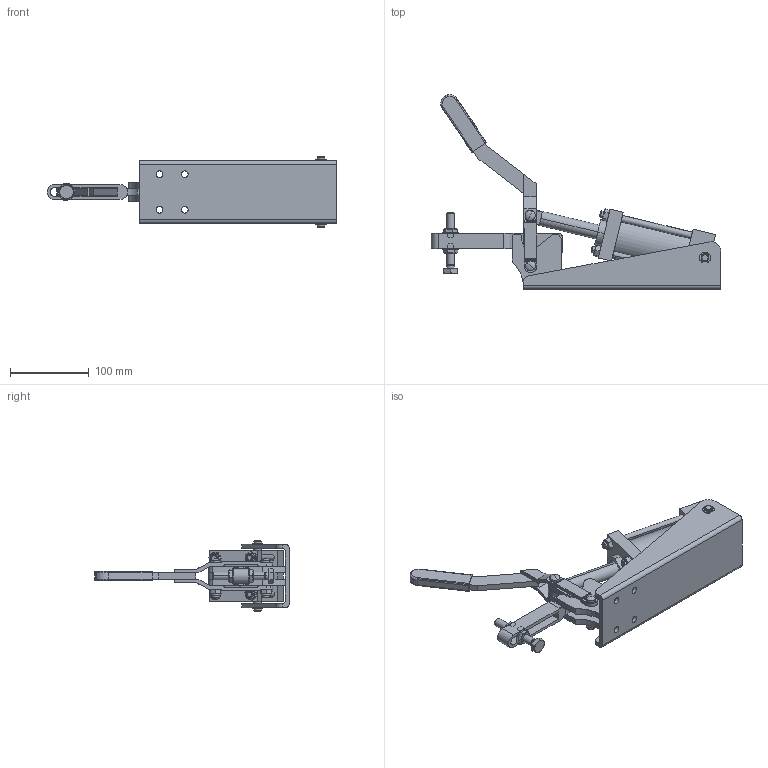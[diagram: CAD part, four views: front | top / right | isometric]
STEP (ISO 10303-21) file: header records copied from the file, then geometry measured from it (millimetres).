
FILE_DESCRIPTION((''),'2;1');
FILE_NAME('S:\Matthew\STEP FILES (Toggle Clamps) v.3.05\Air Horizontal\AH500\AH500U HO.stp','2006-07-11T14:34:51',('Matthew'),(''),'Autodesk Inventor 8','Autodesk Inventor 8','');
FILE_SCHEMA(('AUTOMOTIVE_DESIGN { 1 0 10303 214 1 1 1 1 }'));
Length unit declared in the file: millimetre
Products named in the file (9): AH500U HO; AH500U HO1; AH500U HO2; AH500U HO3; AH500U HO4; AH500U HO5; AH500U HO6; AH500U HO7; AH500U HO8
Assembly tree (8 placements, depth 2):
  AH500U HO
    AH500U HO1
    AH500U HO2
    AH500U HO3
    AH500U HO4
    AH500U HO5
    AH500U HO6
    AH500U HO7
    AH500U HO8
Bounding box: 367 x 246.78 x 89 mm (x, y, z)
Volume: 808933.9 mm3; surface area: 205285.2 mm2
Topology: 9 solids, 71 shells, 872 faces, 2037 edges, 1329 vertices
Faces by surface type: plane 492, cylinder 200, bspline 102, cone 68, torus 6, sphere 4
Entity records: 28157 total; most frequent: CARTESIAN_POINT 8179, DIRECTION 4102, ORIENTED_EDGE 4066, EDGE_CURVE 2033, AXIS2_PLACEMENT_3D 1458, VERTEX_POINT 1329, VECTOR 1186, LINE 1186
